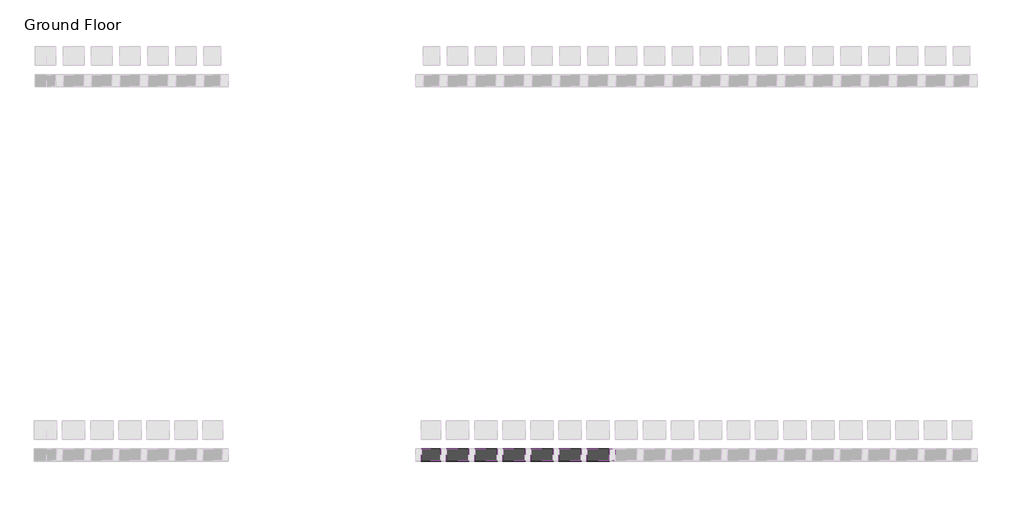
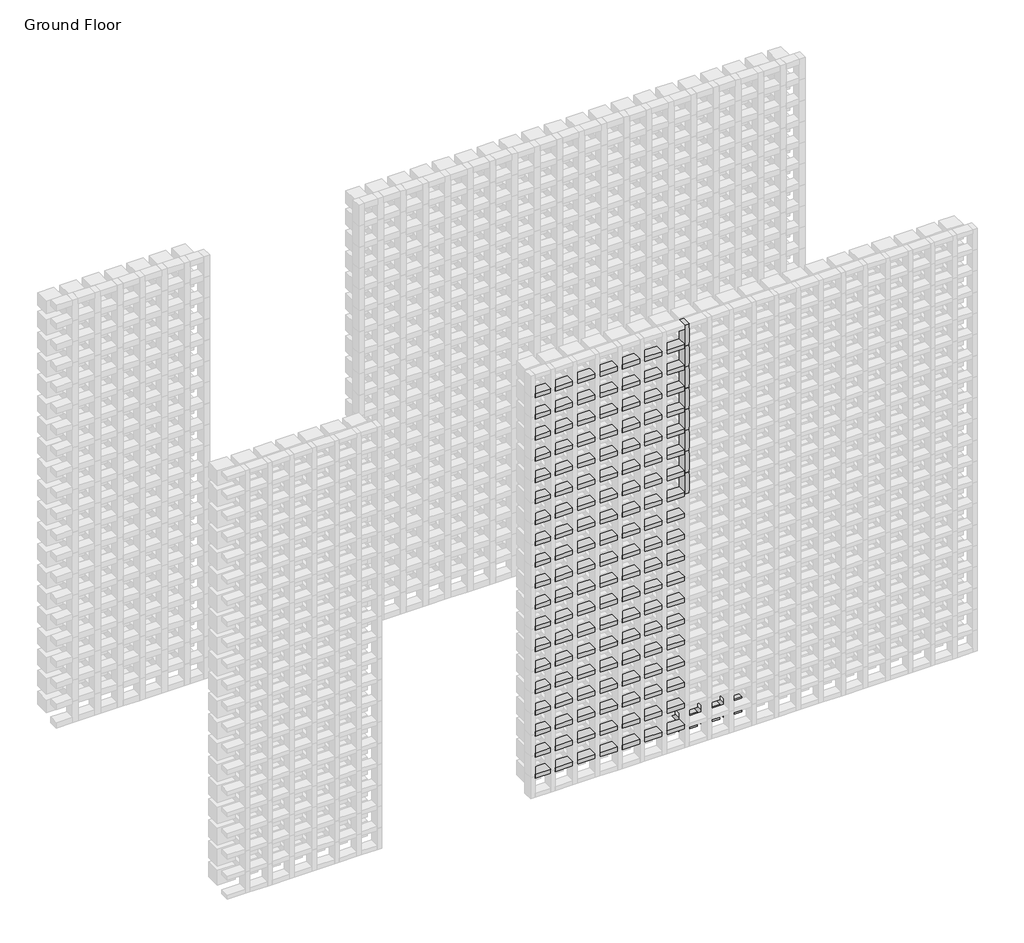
# One storey, part 67 of 350: 141 members, 3 plates.
"""IFC4 building model written with IfcOpenShell, lengths in millimetres."""

from ifc_helpers import new_model, si_unit, origin, place, context, project, spatial, transform, mapped, element, save
from components import rectangular_mullion_5b501421, rectangular_mullion_e9e2e2fa, rectangular_mullion_f28dea33, empty_system_panel_empty_fe50b430

model = new_model("IFC4")

# Units and contexts
model_context = context("Model", 3, world=origin())
ifc_project = project(units=[si_unit("LENGTHUNIT", "METRE", prefix="MILLI")], contexts=[model_context])

# Site, building, storey
site = spatial("IfcSite", under=ifc_project)
building = spatial("IfcBuilding", under=site)
storey = spatial("IfcBuildingStorey", under=building, Name="Ground Floor", Elevation=0.0)

# Members
placement = place(None, origin())
rectangular_mullion_shape = rectangular_mullion_5b501421(model_context)
element("IfcMember", 1, ObjectType="Rectangular Mullion : Batten_Timber_Modinex_Austratus_Grid_Fascia_30x65_Hemlock", at=placement, inside=storey, context=model_context, shape_type="MappedRepresentation", body=[
    mapped(rectangular_mullion_shape, transform((10966.4361642, 38968.2978302, 1800.0), x_axis=(1.0, 0.0, 0.0), y_axis=(0.0, -1.0, 0.0), z_axis=(0.0, 0.0, -1.0))),
])
element("IfcMember", 2, ObjectType="Rectangular Mullion : Batten_Timber_Modinex_Austratus_Grid_Fascia_30x65_Hemlock", at=placement, inside=storey, context=model_context, shape_type="MappedRepresentation", body=[
    mapped(rectangular_mullion_shape, transform((10966.4361642, 38968.2978302, 1950.0), x_axis=(1.0, 0.0, 0.0), y_axis=(0.0, -1.0, 0.0), z_axis=(0.0, 0.0, -1.0))),
])
element("IfcMember", 3, ObjectType="Rectangular Mullion : Batten_Timber_Modinex_Austratus_Grid_Fascia_30x65_Hemlock", at=placement, inside=storey, context=model_context, shape_type="MappedRepresentation", body=[
    mapped(rectangular_mullion_shape, transform((10966.4361642, 38968.2978302, 2100.0), x_axis=(1.0, 0.0, 0.0), y_axis=(0.0, -1.0, 0.0), z_axis=(0.0, 0.0, -1.0))),
])
element("IfcMember", 4, ObjectType="Rectangular Mullion : Batten_Timber_Modinex_Austratus_Grid_Fascia_30x65_Hemlock", at=placement, inside=storey, context=model_context, shape_type="MappedRepresentation", body=[
    mapped(rectangular_mullion_shape, transform((10966.4361642, 38968.2978302, 2250.0), x_axis=(1.0, 0.0, 0.0), y_axis=(0.0, -1.0, 0.0), z_axis=(0.0, 0.0, -1.0))),
])
element("IfcMember", 5, ObjectType="Rectangular Mullion : Batten_Timber_Modinex_Austratus_Grid_Fascia_30x65_Hemlock", at=placement, inside=storey, context=model_context, shape_type="MappedRepresentation", body=[
    mapped(rectangular_mullion_shape, transform((10966.4361642, 38968.2978302, 2400.0), x_axis=(1.0, 0.0, 0.0), y_axis=(0.0, -1.0, 0.0), z_axis=(0.0, 0.0, -1.0))),
])
element("IfcMember", 6, ObjectType="Rectangular Mullion : Batten_Timber_Modinex_Austratus_Grid_Fascia_30x65_Hemlock", at=placement, inside=storey, context=model_context, shape_type="MappedRepresentation", body=[
    mapped(rectangular_mullion_shape, transform((10966.4361642, 38968.2978302, 2550.0), x_axis=(1.0, 0.0, 0.0), y_axis=(0.0, -1.0, 0.0), z_axis=(0.0, 0.0, -1.0))),
])
element("IfcMember", 7, ObjectType="Rectangular Mullion : Batten_Timber_Modinex_Austratus_Grid_Fascia_30x65_Hemlock", at=placement, inside=storey, context=model_context, shape_type="MappedRepresentation", body=[
    mapped(rectangular_mullion_shape, transform((10966.4361642, 38968.2978302, 2700.0), x_axis=(1.0, 0.0, 0.0), y_axis=(0.0, -1.0, 0.0), z_axis=(0.0, 0.0, -1.0))),
])
element("IfcMember", 8, ObjectType="Rectangular Mullion : Batten_Timber_Modinex_Austratus_Grid_Fascia_30x65_Hemlock", at=placement, inside=storey, context=model_context, shape_type="MappedRepresentation", body=[
    mapped(rectangular_mullion_shape, transform((10966.4361642, 38968.2978302, 2850.0), x_axis=(1.0, 0.0, 0.0), y_axis=(0.0, -1.0, 0.0), z_axis=(0.0, 0.0, -1.0))),
])
rectangular_mullion_2_shape = rectangular_mullion_e9e2e2fa(model_context)
element("IfcMember", 9, ObjectType="Rectangular Mullion : Batten_Timber_Modinex_Austratus_Grid_Fascia_30x65_Hemlock", at=placement, inside=storey, context=model_context, shape_type="MappedRepresentation", body=[
    mapped(rectangular_mullion_2_shape, transform((10051.4361642, 38968.2978302, 150.0), x_axis=(0.0, 0.0, 1.0), y_axis=(0.0, -1.0, 0.0), z_axis=(1.0, 0.0, 0.0))),
])
element("IfcMember", 10, ObjectType="Rectangular Mullion : Batten_Timber_Modinex_Austratus_Grid_Fascia_30x65_Hemlock", at=placement, inside=storey, context=model_context, shape_type="MappedRepresentation", body=[
    mapped(rectangular_mullion_2_shape, transform((10051.4361642, 38968.2978302, 300.0), x_axis=(0.0, 0.0, 1.0), y_axis=(0.0, -1.0, 0.0), z_axis=(1.0, 0.0, 0.0))),
])
element("IfcMember", 11, ObjectType="Rectangular Mullion : Batten_Timber_Modinex_Austratus_Grid_Fascia_30x65_Hemlock", at=placement, inside=storey, context=model_context, shape_type="MappedRepresentation", body=[
    mapped(rectangular_mullion_2_shape, transform((10051.4361642, 38968.2978302, 450.0), x_axis=(0.0, 0.0, 1.0), y_axis=(0.0, -1.0, 0.0), z_axis=(1.0, 0.0, 0.0))),
])
element("IfcMember", 12, ObjectType="Rectangular Mullion : Batten_Timber_Modinex_Austratus_Grid_Fascia_30x65_Hemlock", at=placement, inside=storey, context=model_context, shape_type="MappedRepresentation", body=[
    mapped(rectangular_mullion_2_shape, transform((10051.4361642, 38968.2978302, 600.0), x_axis=(0.0, 0.0, 1.0), y_axis=(0.0, -1.0, 0.0), z_axis=(1.0, 0.0, 0.0))),
])
element("IfcMember", 13, ObjectType="Rectangular Mullion : Batten_Timber_Modinex_Austratus_Grid_Fascia_30x65_Hemlock", at=placement, inside=storey, context=model_context, shape_type="MappedRepresentation", body=[
    mapped(rectangular_mullion_2_shape, transform((10051.4361642, 38968.2978302, 750.0), x_axis=(0.0, 0.0, 1.0), y_axis=(0.0, -1.0, 0.0), z_axis=(1.0, 0.0, 0.0))),
])
element("IfcMember", 14, ObjectType="Rectangular Mullion : Batten_Timber_Modinex_Austratus_Grid_Fascia_30x65_Hemlock", at=placement, inside=storey, context=model_context, shape_type="MappedRepresentation", body=[
    mapped(rectangular_mullion_2_shape, transform((10051.4361642, 38968.2978302, 900.0), x_axis=(0.0, 0.0, 1.0), y_axis=(0.0, -1.0, 0.0), z_axis=(1.0, 0.0, 0.0))),
])
element("IfcMember", 15, ObjectType="Rectangular Mullion : Batten_Timber_Modinex_Austratus_Grid_Fascia_30x65_Hemlock", at=placement, inside=storey, context=model_context, shape_type="MappedRepresentation", body=[
    mapped(rectangular_mullion_2_shape, transform((10051.4361642, 38968.2978302, 1050.0), x_axis=(0.0, 0.0, 1.0), y_axis=(0.0, -1.0, 0.0), z_axis=(1.0, 0.0, 0.0))),
])
element("IfcMember", 16, ObjectType="Rectangular Mullion : Batten_Timber_Modinex_Austratus_Grid_Fascia_30x65_Hemlock", at=placement, inside=storey, context=model_context, shape_type="MappedRepresentation", body=[
    mapped(rectangular_mullion_2_shape, transform((10051.4361642, 38968.2978302, 1200.0), x_axis=(0.0, 0.0, 1.0), y_axis=(0.0, -1.0, 0.0), z_axis=(1.0, 0.0, 0.0))),
])
element("IfcMember", 17, ObjectType="Rectangular Mullion : Batten_Timber_Modinex_Austratus_Grid_Fascia_30x65_Hemlock", at=placement, inside=storey, context=model_context, shape_type="MappedRepresentation", body=[
    mapped(rectangular_mullion_2_shape, transform((10051.4361642, 38968.2978302, 1350.0), x_axis=(0.0, 0.0, 1.0), y_axis=(0.0, -1.0, 0.0), z_axis=(1.0, 0.0, 0.0))),
])
element("IfcMember", 18, ObjectType="Rectangular Mullion : Batten_Timber_Modinex_Austratus_Grid_Fascia_30x65_Hemlock", at=placement, inside=storey, context=model_context, shape_type="MappedRepresentation", body=[
    mapped(rectangular_mullion_2_shape, transform((10051.4361642, 38968.2978302, 1500.0), x_axis=(0.0, 0.0, 1.0), y_axis=(0.0, -1.0, 0.0), z_axis=(1.0, 0.0, 0.0))),
])
element("IfcMember", 19, ObjectType="Rectangular Mullion : Batten_Timber_Modinex_Austratus_Grid_Fascia_30x65_Hemlock", at=placement, inside=storey, context=model_context, shape_type="MappedRepresentation", body=[
    mapped(rectangular_mullion_2_shape, transform((10051.4361642, 38968.2978302, 1650.0), x_axis=(0.0, 0.0, 1.0), y_axis=(0.0, -1.0, 0.0), z_axis=(1.0, 0.0, 0.0))),
])
element("IfcMember", 20, ObjectType="Rectangular Mullion : Batten_Timber_Modinex_Austratus_Grid_Fascia_30x65_Hemlock", at=placement, inside=storey, context=model_context, shape_type="MappedRepresentation", body=[
    mapped(rectangular_mullion_2_shape, transform((10051.4361642, 38968.2978302, 1800.0), x_axis=(0.0, 0.0, 1.0), y_axis=(0.0, -1.0, 0.0), z_axis=(1.0, 0.0, 0.0))),
])
element("IfcMember", 21, ObjectType="Rectangular Mullion : Batten_Timber_Modinex_Austratus_Grid_Fascia_30x65_Hemlock", at=placement, inside=storey, context=model_context, shape_type="MappedRepresentation", body=[
    mapped(rectangular_mullion_2_shape, transform((10051.4361642, 38968.2978302, 1950.0), x_axis=(0.0, 0.0, 1.0), y_axis=(0.0, -1.0, 0.0), z_axis=(1.0, 0.0, 0.0))),
])
element("IfcMember", 22, ObjectType="Rectangular Mullion : Batten_Timber_Modinex_Austratus_Grid_Fascia_30x65_Hemlock", at=placement, inside=storey, context=model_context, shape_type="MappedRepresentation", body=[
    mapped(rectangular_mullion_2_shape, transform((10051.4361642, 38968.2978302, 2100.0), x_axis=(0.0, 0.0, 1.0), y_axis=(0.0, -1.0, 0.0), z_axis=(1.0, 0.0, 0.0))),
])
element("IfcMember", 23, ObjectType="Rectangular Mullion : Batten_Timber_Modinex_Austratus_Grid_Fascia_30x65_Hemlock", at=placement, inside=storey, context=model_context, shape_type="MappedRepresentation", body=[
    mapped(rectangular_mullion_2_shape, transform((10051.4361642, 38968.2978302, 2250.0), x_axis=(0.0, 0.0, 1.0), y_axis=(0.0, -1.0, 0.0), z_axis=(1.0, 0.0, 0.0))),
])
element("IfcMember", 24, ObjectType="Rectangular Mullion : Batten_Timber_Modinex_Austratus_Grid_Fascia_30x65_Hemlock", at=placement, inside=storey, context=model_context, shape_type="MappedRepresentation", body=[
    mapped(rectangular_mullion_2_shape, transform((10051.4361642, 38968.2978302, 2400.0), x_axis=(0.0, 0.0, 1.0), y_axis=(0.0, -1.0, 0.0), z_axis=(1.0, 0.0, 0.0))),
])
element("IfcMember", 25, ObjectType="Rectangular Mullion : Batten_Timber_Modinex_Austratus_Grid_Fascia_30x65_Hemlock", at=placement, inside=storey, context=model_context, shape_type="MappedRepresentation", body=[
    mapped(rectangular_mullion_2_shape, transform((10051.4361642, 38968.2978302, 2550.0), x_axis=(0.0, 0.0, 1.0), y_axis=(0.0, -1.0, 0.0), z_axis=(1.0, 0.0, 0.0))),
])
element("IfcMember", 26, ObjectType="Rectangular Mullion : Batten_Timber_Modinex_Austratus_Grid_Fascia_30x65_Hemlock", at=placement, inside=storey, context=model_context, shape_type="MappedRepresentation", body=[
    mapped(rectangular_mullion_2_shape, transform((10051.4361642, 38968.2978302, 2700.0), x_axis=(0.0, 0.0, 1.0), y_axis=(0.0, -1.0, 0.0), z_axis=(1.0, 0.0, 0.0))),
])
element("IfcMember", 27, ObjectType="Rectangular Mullion : Batten_Timber_Modinex_Austratus_Grid_Fascia_30x65_Hemlock", at=placement, inside=storey, context=model_context, shape_type="MappedRepresentation", body=[
    mapped(rectangular_mullion_2_shape, transform((10051.4361642, 38968.2978302, 2850.0), x_axis=(0.0, 0.0, 1.0), y_axis=(0.0, -1.0, 0.0), z_axis=(1.0, 0.0, 0.0))),
])
rectangular_mullion_3_shape = rectangular_mullion_f28dea33(model_context)
element("IfcMember", 28, ObjectType="Rectangular Mullion : Batten_Timber_Modinex_Austratus_Grid_Fascia_30x65_Hemlock", at=placement, inside=storey, context=model_context, shape_type="MappedRepresentation", body=[
    mapped(rectangular_mullion_3_shape, transform((10201.4361642, 38968.2978302, 150.0), x_axis=(0.0, 0.0, 1.0), y_axis=(0.0, -1.0, 0.0), z_axis=(1.0, 0.0, 0.0))),
])
element("IfcMember", 29, ObjectType="Rectangular Mullion : Batten_Timber_Modinex_Austratus_Grid_Fascia_30x65_Hemlock", at=placement, inside=storey, context=model_context, shape_type="MappedRepresentation", body=[
    mapped(rectangular_mullion_3_shape, transform((10351.4361642, 38968.2978302, 150.0), x_axis=(0.0, 0.0, 1.0), y_axis=(0.0, -1.0, 0.0), z_axis=(1.0, 0.0, 0.0))),
])
element("IfcMember", 30, ObjectType="Rectangular Mullion : Batten_Timber_Modinex_Austratus_Grid_Fascia_30x65_Hemlock", at=placement, inside=storey, context=model_context, shape_type="MappedRepresentation", body=[
    mapped(rectangular_mullion_3_shape, transform((10501.4361642, 38968.2978302, 150.0), x_axis=(0.0, 0.0, 1.0), y_axis=(0.0, -1.0, 0.0), z_axis=(1.0, 0.0, 0.0))),
])
element("IfcMember", 31, ObjectType="Rectangular Mullion : Batten_Timber_Modinex_Austratus_Grid_Fascia_30x65_Hemlock", at=placement, inside=storey, context=model_context, shape_type="MappedRepresentation", body=[
    mapped(rectangular_mullion_3_shape, transform((10651.4361642, 38968.2978302, 150.0), x_axis=(0.0, 0.0, 1.0), y_axis=(0.0, -1.0, 0.0), z_axis=(1.0, 0.0, 0.0))),
])
element("IfcMember", 32, ObjectType="Rectangular Mullion : Batten_Timber_Modinex_Austratus_Grid_Fascia_30x65_Hemlock", at=placement, inside=storey, context=model_context, shape_type="MappedRepresentation", body=[
    mapped(rectangular_mullion_3_shape, transform((10801.4361642, 38968.2978302, 150.0), x_axis=(0.0, 0.0, 1.0), y_axis=(0.0, -1.0, 0.0), z_axis=(1.0, 0.0, 0.0))),
])
element("IfcMember", 33, ObjectType="Rectangular Mullion : Batten_Timber_Modinex_Austratus_Grid_Fascia_30x65_Hemlock", at=placement, inside=storey, context=model_context, shape_type="MappedRepresentation", body=[
    mapped(rectangular_mullion_3_shape, transform((10951.4361642, 38968.2978302, 150.0), x_axis=(0.0, 0.0, 1.0), y_axis=(0.0, -1.0, 0.0), z_axis=(1.0, 0.0, 0.0))),
])
element("IfcMember", 34, ObjectType="Rectangular Mullion : Batten_Timber_Modinex_Austratus_Grid_Fascia_30x65_Hemlock", at=placement, inside=storey, context=model_context, shape_type="MappedRepresentation", body=[
    mapped(rectangular_mullion_3_shape, transform((10201.4361642, 38968.2978302, 300.0), x_axis=(0.0, 0.0, 1.0), y_axis=(0.0, -1.0, 0.0), z_axis=(1.0, 0.0, 0.0))),
])
element("IfcMember", 35, ObjectType="Rectangular Mullion : Batten_Timber_Modinex_Austratus_Grid_Fascia_30x65_Hemlock", at=placement, inside=storey, context=model_context, shape_type="MappedRepresentation", body=[
    mapped(rectangular_mullion_3_shape, transform((10351.4361642, 38968.2978302, 300.0), x_axis=(0.0, 0.0, 1.0), y_axis=(0.0, -1.0, 0.0), z_axis=(1.0, 0.0, 0.0))),
])
element("IfcMember", 36, ObjectType="Rectangular Mullion : Batten_Timber_Modinex_Austratus_Grid_Fascia_30x65_Hemlock", at=placement, inside=storey, context=model_context, shape_type="MappedRepresentation", body=[
    mapped(rectangular_mullion_3_shape, transform((10501.4361642, 38968.2978302, 300.0), x_axis=(0.0, 0.0, 1.0), y_axis=(0.0, -1.0, 0.0), z_axis=(1.0, 0.0, 0.0))),
])
element("IfcMember", 37, ObjectType="Rectangular Mullion : Batten_Timber_Modinex_Austratus_Grid_Fascia_30x65_Hemlock", at=placement, inside=storey, context=model_context, shape_type="MappedRepresentation", body=[
    mapped(rectangular_mullion_3_shape, transform((10651.4361642, 38968.2978302, 300.0), x_axis=(0.0, 0.0, 1.0), y_axis=(0.0, -1.0, 0.0), z_axis=(1.0, 0.0, 0.0))),
])
element("IfcMember", 38, ObjectType="Rectangular Mullion : Batten_Timber_Modinex_Austratus_Grid_Fascia_30x65_Hemlock", at=placement, inside=storey, context=model_context, shape_type="MappedRepresentation", body=[
    mapped(rectangular_mullion_3_shape, transform((10801.4361642, 38968.2978302, 300.0), x_axis=(0.0, 0.0, 1.0), y_axis=(0.0, -1.0, 0.0), z_axis=(1.0, 0.0, 0.0))),
])
element("IfcMember", 39, ObjectType="Rectangular Mullion : Batten_Timber_Modinex_Austratus_Grid_Fascia_30x65_Hemlock", at=placement, inside=storey, context=model_context, shape_type="MappedRepresentation", body=[
    mapped(rectangular_mullion_3_shape, transform((10951.4361642, 38968.2978302, 300.0), x_axis=(0.0, 0.0, 1.0), y_axis=(0.0, -1.0, 0.0), z_axis=(1.0, 0.0, 0.0))),
])
element("IfcMember", 40, ObjectType="Rectangular Mullion : Batten_Timber_Modinex_Austratus_Grid_Fascia_30x65_Hemlock", at=placement, inside=storey, context=model_context, shape_type="MappedRepresentation", body=[
    mapped(rectangular_mullion_3_shape, transform((10201.4361642, 38968.2978302, 450.0), x_axis=(0.0, 0.0, 1.0), y_axis=(0.0, -1.0, 0.0), z_axis=(1.0, 0.0, 0.0))),
])
element("IfcMember", 41, ObjectType="Rectangular Mullion : Batten_Timber_Modinex_Austratus_Grid_Fascia_30x65_Hemlock", at=placement, inside=storey, context=model_context, shape_type="MappedRepresentation", body=[
    mapped(rectangular_mullion_3_shape, transform((10351.4361642, 38968.2978302, 450.0), x_axis=(0.0, 0.0, 1.0), y_axis=(0.0, -1.0, 0.0), z_axis=(1.0, 0.0, 0.0))),
])
element("IfcMember", 42, ObjectType="Rectangular Mullion : Batten_Timber_Modinex_Austratus_Grid_Fascia_30x65_Hemlock", at=placement, inside=storey, context=model_context, shape_type="MappedRepresentation", body=[
    mapped(rectangular_mullion_3_shape, transform((10501.4361642, 38968.2978302, 450.0), x_axis=(0.0, 0.0, 1.0), y_axis=(0.0, -1.0, 0.0), z_axis=(1.0, 0.0, 0.0))),
])
element("IfcMember", 43, ObjectType="Rectangular Mullion : Batten_Timber_Modinex_Austratus_Grid_Fascia_30x65_Hemlock", at=placement, inside=storey, context=model_context, shape_type="MappedRepresentation", body=[
    mapped(rectangular_mullion_3_shape, transform((10651.4361642, 38968.2978302, 450.0), x_axis=(0.0, 0.0, 1.0), y_axis=(0.0, -1.0, 0.0), z_axis=(1.0, 0.0, 0.0))),
])
element("IfcMember", 44, ObjectType="Rectangular Mullion : Batten_Timber_Modinex_Austratus_Grid_Fascia_30x65_Hemlock", at=placement, inside=storey, context=model_context, shape_type="MappedRepresentation", body=[
    mapped(rectangular_mullion_3_shape, transform((10801.4361642, 38968.2978302, 450.0), x_axis=(0.0, 0.0, 1.0), y_axis=(0.0, -1.0, 0.0), z_axis=(1.0, 0.0, 0.0))),
])
element("IfcMember", 45, ObjectType="Rectangular Mullion : Batten_Timber_Modinex_Austratus_Grid_Fascia_30x65_Hemlock", at=placement, inside=storey, context=model_context, shape_type="MappedRepresentation", body=[
    mapped(rectangular_mullion_3_shape, transform((10951.4361642, 38968.2978302, 450.0), x_axis=(0.0, 0.0, 1.0), y_axis=(0.0, -1.0, 0.0), z_axis=(1.0, 0.0, 0.0))),
])
element("IfcMember", 46, ObjectType="Rectangular Mullion : Batten_Timber_Modinex_Austratus_Grid_Fascia_30x65_Hemlock", at=placement, inside=storey, context=model_context, shape_type="MappedRepresentation", body=[
    mapped(rectangular_mullion_3_shape, transform((10201.4361642, 38968.2978302, 600.0), x_axis=(0.0, 0.0, 1.0), y_axis=(0.0, -1.0, 0.0), z_axis=(1.0, 0.0, 0.0))),
])
element("IfcMember", 47, ObjectType="Rectangular Mullion : Batten_Timber_Modinex_Austratus_Grid_Fascia_30x65_Hemlock", at=placement, inside=storey, context=model_context, shape_type="MappedRepresentation", body=[
    mapped(rectangular_mullion_3_shape, transform((10351.4361642, 38968.2978302, 600.0), x_axis=(0.0, 0.0, 1.0), y_axis=(0.0, -1.0, 0.0), z_axis=(1.0, 0.0, 0.0))),
])
element("IfcMember", 48, ObjectType="Rectangular Mullion : Batten_Timber_Modinex_Austratus_Grid_Fascia_30x65_Hemlock", at=placement, inside=storey, context=model_context, shape_type="MappedRepresentation", body=[
    mapped(rectangular_mullion_3_shape, transform((10501.4361642, 38968.2978302, 600.0), x_axis=(0.0, 0.0, 1.0), y_axis=(0.0, -1.0, 0.0), z_axis=(1.0, 0.0, 0.0))),
])
element("IfcMember", 49, ObjectType="Rectangular Mullion : Batten_Timber_Modinex_Austratus_Grid_Fascia_30x65_Hemlock", at=placement, inside=storey, context=model_context, shape_type="MappedRepresentation", body=[
    mapped(rectangular_mullion_3_shape, transform((10651.4361642, 38968.2978302, 600.0), x_axis=(0.0, 0.0, 1.0), y_axis=(0.0, -1.0, 0.0), z_axis=(1.0, 0.0, 0.0))),
])
element("IfcMember", 50, ObjectType="Rectangular Mullion : Batten_Timber_Modinex_Austratus_Grid_Fascia_30x65_Hemlock", at=placement, inside=storey, context=model_context, shape_type="MappedRepresentation", body=[
    mapped(rectangular_mullion_3_shape, transform((10801.4361642, 38968.2978302, 600.0), x_axis=(0.0, 0.0, 1.0), y_axis=(0.0, -1.0, 0.0), z_axis=(1.0, 0.0, 0.0))),
])
element("IfcMember", 51, ObjectType="Rectangular Mullion : Batten_Timber_Modinex_Austratus_Grid_Fascia_30x65_Hemlock", at=placement, inside=storey, context=model_context, shape_type="MappedRepresentation", body=[
    mapped(rectangular_mullion_3_shape, transform((10951.4361642, 38968.2978302, 600.0), x_axis=(0.0, 0.0, 1.0), y_axis=(0.0, -1.0, 0.0), z_axis=(1.0, 0.0, 0.0))),
])
element("IfcMember", 52, ObjectType="Rectangular Mullion : Batten_Timber_Modinex_Austratus_Grid_Fascia_30x65_Hemlock", at=placement, inside=storey, context=model_context, shape_type="MappedRepresentation", body=[
    mapped(rectangular_mullion_3_shape, transform((10201.4361642, 38968.2978302, 750.0), x_axis=(0.0, 0.0, 1.0), y_axis=(0.0, -1.0, 0.0), z_axis=(1.0, 0.0, 0.0))),
])
element("IfcMember", 53, ObjectType="Rectangular Mullion : Batten_Timber_Modinex_Austratus_Grid_Fascia_30x65_Hemlock", at=placement, inside=storey, context=model_context, shape_type="MappedRepresentation", body=[
    mapped(rectangular_mullion_3_shape, transform((10351.4361642, 38968.2978302, 750.0), x_axis=(0.0, 0.0, 1.0), y_axis=(0.0, -1.0, 0.0), z_axis=(1.0, 0.0, 0.0))),
])
element("IfcMember", 54, ObjectType="Rectangular Mullion : Batten_Timber_Modinex_Austratus_Grid_Fascia_30x65_Hemlock", at=placement, inside=storey, context=model_context, shape_type="MappedRepresentation", body=[
    mapped(rectangular_mullion_3_shape, transform((10501.4361642, 38968.2978302, 750.0), x_axis=(0.0, 0.0, 1.0), y_axis=(0.0, -1.0, 0.0), z_axis=(1.0, 0.0, 0.0))),
])
element("IfcMember", 55, ObjectType="Rectangular Mullion : Batten_Timber_Modinex_Austratus_Grid_Fascia_30x65_Hemlock", at=placement, inside=storey, context=model_context, shape_type="MappedRepresentation", body=[
    mapped(rectangular_mullion_3_shape, transform((10651.4361642, 38968.2978302, 750.0), x_axis=(0.0, 0.0, 1.0), y_axis=(0.0, -1.0, 0.0), z_axis=(1.0, 0.0, 0.0))),
])
element("IfcMember", 56, ObjectType="Rectangular Mullion : Batten_Timber_Modinex_Austratus_Grid_Fascia_30x65_Hemlock", at=placement, inside=storey, context=model_context, shape_type="MappedRepresentation", body=[
    mapped(rectangular_mullion_3_shape, transform((10801.4361642, 38968.2978302, 750.0), x_axis=(0.0, 0.0, 1.0), y_axis=(0.0, -1.0, 0.0), z_axis=(1.0, 0.0, 0.0))),
])
element("IfcMember", 57, ObjectType="Rectangular Mullion : Batten_Timber_Modinex_Austratus_Grid_Fascia_30x65_Hemlock", at=placement, inside=storey, context=model_context, shape_type="MappedRepresentation", body=[
    mapped(rectangular_mullion_3_shape, transform((10951.4361642, 38968.2978302, 750.0), x_axis=(0.0, 0.0, 1.0), y_axis=(0.0, -1.0, 0.0), z_axis=(1.0, 0.0, 0.0))),
])
element("IfcMember", 58, ObjectType="Rectangular Mullion : Batten_Timber_Modinex_Austratus_Grid_Fascia_30x65_Hemlock", at=placement, inside=storey, context=model_context, shape_type="MappedRepresentation", body=[
    mapped(rectangular_mullion_3_shape, transform((10201.4361642, 38968.2978302, 900.0), x_axis=(0.0, 0.0, 1.0), y_axis=(0.0, -1.0, 0.0), z_axis=(1.0, 0.0, 0.0))),
])
element("IfcMember", 59, ObjectType="Rectangular Mullion : Batten_Timber_Modinex_Austratus_Grid_Fascia_30x65_Hemlock", at=placement, inside=storey, context=model_context, shape_type="MappedRepresentation", body=[
    mapped(rectangular_mullion_3_shape, transform((10351.4361642, 38968.2978302, 900.0), x_axis=(0.0, 0.0, 1.0), y_axis=(0.0, -1.0, 0.0), z_axis=(1.0, 0.0, 0.0))),
])
element("IfcMember", 60, ObjectType="Rectangular Mullion : Batten_Timber_Modinex_Austratus_Grid_Fascia_30x65_Hemlock", at=placement, inside=storey, context=model_context, shape_type="MappedRepresentation", body=[
    mapped(rectangular_mullion_3_shape, transform((10501.4361642, 38968.2978302, 900.0), x_axis=(0.0, 0.0, 1.0), y_axis=(0.0, -1.0, 0.0), z_axis=(1.0, 0.0, 0.0))),
])
element("IfcMember", 61, ObjectType="Rectangular Mullion : Batten_Timber_Modinex_Austratus_Grid_Fascia_30x65_Hemlock", at=placement, inside=storey, context=model_context, shape_type="MappedRepresentation", body=[
    mapped(rectangular_mullion_3_shape, transform((10651.4361642, 38968.2978302, 900.0), x_axis=(0.0, 0.0, 1.0), y_axis=(0.0, -1.0, 0.0), z_axis=(1.0, 0.0, 0.0))),
])
element("IfcMember", 62, ObjectType="Rectangular Mullion : Batten_Timber_Modinex_Austratus_Grid_Fascia_30x65_Hemlock", at=placement, inside=storey, context=model_context, shape_type="MappedRepresentation", body=[
    mapped(rectangular_mullion_3_shape, transform((10801.4361642, 38968.2978302, 900.0), x_axis=(0.0, 0.0, 1.0), y_axis=(0.0, -1.0, 0.0), z_axis=(1.0, 0.0, 0.0))),
])
element("IfcMember", 63, ObjectType="Rectangular Mullion : Batten_Timber_Modinex_Austratus_Grid_Fascia_30x65_Hemlock", at=placement, inside=storey, context=model_context, shape_type="MappedRepresentation", body=[
    mapped(rectangular_mullion_3_shape, transform((10951.4361642, 38968.2978302, 900.0), x_axis=(0.0, 0.0, 1.0), y_axis=(0.0, -1.0, 0.0), z_axis=(1.0, 0.0, 0.0))),
])
element("IfcMember", 64, ObjectType="Rectangular Mullion : Batten_Timber_Modinex_Austratus_Grid_Fascia_30x65_Hemlock", at=placement, inside=storey, context=model_context, shape_type="MappedRepresentation", body=[
    mapped(rectangular_mullion_3_shape, transform((10201.4361642, 38968.2978302, 1050.0), x_axis=(0.0, 0.0, 1.0), y_axis=(0.0, -1.0, 0.0), z_axis=(1.0, 0.0, 0.0))),
])
element("IfcMember", 65, ObjectType="Rectangular Mullion : Batten_Timber_Modinex_Austratus_Grid_Fascia_30x65_Hemlock", at=placement, inside=storey, context=model_context, shape_type="MappedRepresentation", body=[
    mapped(rectangular_mullion_3_shape, transform((10351.4361642, 38968.2978302, 1050.0), x_axis=(0.0, 0.0, 1.0), y_axis=(0.0, -1.0, 0.0), z_axis=(1.0, 0.0, 0.0))),
])
element("IfcMember", 66, ObjectType="Rectangular Mullion : Batten_Timber_Modinex_Austratus_Grid_Fascia_30x65_Hemlock", at=placement, inside=storey, context=model_context, shape_type="MappedRepresentation", body=[
    mapped(rectangular_mullion_3_shape, transform((10501.4361642, 38968.2978302, 1050.0), x_axis=(0.0, 0.0, 1.0), y_axis=(0.0, -1.0, 0.0), z_axis=(1.0, 0.0, 0.0))),
])
element("IfcMember", 67, ObjectType="Rectangular Mullion : Batten_Timber_Modinex_Austratus_Grid_Fascia_30x65_Hemlock", at=placement, inside=storey, context=model_context, shape_type="MappedRepresentation", body=[
    mapped(rectangular_mullion_3_shape, transform((10651.4361642, 38968.2978302, 1050.0), x_axis=(0.0, 0.0, 1.0), y_axis=(0.0, -1.0, 0.0), z_axis=(1.0, 0.0, 0.0))),
])
element("IfcMember", 68, ObjectType="Rectangular Mullion : Batten_Timber_Modinex_Austratus_Grid_Fascia_30x65_Hemlock", at=placement, inside=storey, context=model_context, shape_type="MappedRepresentation", body=[
    mapped(rectangular_mullion_3_shape, transform((10801.4361642, 38968.2978302, 1050.0), x_axis=(0.0, 0.0, 1.0), y_axis=(0.0, -1.0, 0.0), z_axis=(1.0, 0.0, 0.0))),
])
element("IfcMember", 69, ObjectType="Rectangular Mullion : Batten_Timber_Modinex_Austratus_Grid_Fascia_30x65_Hemlock", at=placement, inside=storey, context=model_context, shape_type="MappedRepresentation", body=[
    mapped(rectangular_mullion_3_shape, transform((10951.4361642, 38968.2978302, 1050.0), x_axis=(0.0, 0.0, 1.0), y_axis=(0.0, -1.0, 0.0), z_axis=(1.0, 0.0, 0.0))),
])
element("IfcMember", 70, ObjectType="Rectangular Mullion : Batten_Timber_Modinex_Austratus_Grid_Fascia_30x65_Hemlock", at=placement, inside=storey, context=model_context, shape_type="MappedRepresentation", body=[
    mapped(rectangular_mullion_3_shape, transform((10201.4361642, 38968.2978302, 1200.0), x_axis=(0.0, 0.0, 1.0), y_axis=(0.0, -1.0, 0.0), z_axis=(1.0, 0.0, 0.0))),
])
element("IfcMember", 71, ObjectType="Rectangular Mullion : Batten_Timber_Modinex_Austratus_Grid_Fascia_30x65_Hemlock", at=placement, inside=storey, context=model_context, shape_type="MappedRepresentation", body=[
    mapped(rectangular_mullion_3_shape, transform((10351.4361642, 38968.2978302, 1200.0), x_axis=(0.0, 0.0, 1.0), y_axis=(0.0, -1.0, 0.0), z_axis=(1.0, 0.0, 0.0))),
])
element("IfcMember", 72, ObjectType="Rectangular Mullion : Batten_Timber_Modinex_Austratus_Grid_Fascia_30x65_Hemlock", at=placement, inside=storey, context=model_context, shape_type="MappedRepresentation", body=[
    mapped(rectangular_mullion_3_shape, transform((10501.4361642, 38968.2978302, 1200.0), x_axis=(0.0, 0.0, 1.0), y_axis=(0.0, -1.0, 0.0), z_axis=(1.0, 0.0, 0.0))),
])
element("IfcMember", 73, ObjectType="Rectangular Mullion : Batten_Timber_Modinex_Austratus_Grid_Fascia_30x65_Hemlock", at=placement, inside=storey, context=model_context, shape_type="MappedRepresentation", body=[
    mapped(rectangular_mullion_3_shape, transform((10651.4361642, 38968.2978302, 1200.0), x_axis=(0.0, 0.0, 1.0), y_axis=(0.0, -1.0, 0.0), z_axis=(1.0, 0.0, 0.0))),
])
element("IfcMember", 74, ObjectType="Rectangular Mullion : Batten_Timber_Modinex_Austratus_Grid_Fascia_30x65_Hemlock", at=placement, inside=storey, context=model_context, shape_type="MappedRepresentation", body=[
    mapped(rectangular_mullion_3_shape, transform((10801.4361642, 38968.2978302, 1200.0), x_axis=(0.0, 0.0, 1.0), y_axis=(0.0, -1.0, 0.0), z_axis=(1.0, 0.0, 0.0))),
])
element("IfcMember", 75, ObjectType="Rectangular Mullion : Batten_Timber_Modinex_Austratus_Grid_Fascia_30x65_Hemlock", at=placement, inside=storey, context=model_context, shape_type="MappedRepresentation", body=[
    mapped(rectangular_mullion_3_shape, transform((10951.4361642, 38968.2978302, 1200.0), x_axis=(0.0, 0.0, 1.0), y_axis=(0.0, -1.0, 0.0), z_axis=(1.0, 0.0, 0.0))),
])
element("IfcMember", 76, ObjectType="Rectangular Mullion : Batten_Timber_Modinex_Austratus_Grid_Fascia_30x65_Hemlock", at=placement, inside=storey, context=model_context, shape_type="MappedRepresentation", body=[
    mapped(rectangular_mullion_3_shape, transform((10201.4361642, 38968.2978302, 1350.0), x_axis=(0.0, 0.0, 1.0), y_axis=(0.0, -1.0, 0.0), z_axis=(1.0, 0.0, 0.0))),
])
element("IfcMember", 77, ObjectType="Rectangular Mullion : Batten_Timber_Modinex_Austratus_Grid_Fascia_30x65_Hemlock", at=placement, inside=storey, context=model_context, shape_type="MappedRepresentation", body=[
    mapped(rectangular_mullion_3_shape, transform((10351.4361642, 38968.2978302, 1350.0), x_axis=(0.0, 0.0, 1.0), y_axis=(0.0, -1.0, 0.0), z_axis=(1.0, 0.0, 0.0))),
])
element("IfcMember", 78, ObjectType="Rectangular Mullion : Batten_Timber_Modinex_Austratus_Grid_Fascia_30x65_Hemlock", at=placement, inside=storey, context=model_context, shape_type="MappedRepresentation", body=[
    mapped(rectangular_mullion_3_shape, transform((10501.4361642, 38968.2978302, 1350.0), x_axis=(0.0, 0.0, 1.0), y_axis=(0.0, -1.0, 0.0), z_axis=(1.0, 0.0, 0.0))),
])
element("IfcMember", 79, ObjectType="Rectangular Mullion : Batten_Timber_Modinex_Austratus_Grid_Fascia_30x65_Hemlock", at=placement, inside=storey, context=model_context, shape_type="MappedRepresentation", body=[
    mapped(rectangular_mullion_3_shape, transform((10651.4361642, 38968.2978302, 1350.0), x_axis=(0.0, 0.0, 1.0), y_axis=(0.0, -1.0, 0.0), z_axis=(1.0, 0.0, 0.0))),
])
element("IfcMember", 80, ObjectType="Rectangular Mullion : Batten_Timber_Modinex_Austratus_Grid_Fascia_30x65_Hemlock", at=placement, inside=storey, context=model_context, shape_type="MappedRepresentation", body=[
    mapped(rectangular_mullion_3_shape, transform((10801.4361642, 38968.2978302, 1350.0), x_axis=(0.0, 0.0, 1.0), y_axis=(0.0, -1.0, 0.0), z_axis=(1.0, 0.0, 0.0))),
])
element("IfcMember", 81, ObjectType="Rectangular Mullion : Batten_Timber_Modinex_Austratus_Grid_Fascia_30x65_Hemlock", at=placement, inside=storey, context=model_context, shape_type="MappedRepresentation", body=[
    mapped(rectangular_mullion_3_shape, transform((10951.4361642, 38968.2978302, 1350.0), x_axis=(0.0, 0.0, 1.0), y_axis=(0.0, -1.0, 0.0), z_axis=(1.0, 0.0, 0.0))),
])
element("IfcMember", 82, ObjectType="Rectangular Mullion : Batten_Timber_Modinex_Austratus_Grid_Fascia_30x65_Hemlock", at=placement, inside=storey, context=model_context, shape_type="MappedRepresentation", body=[
    mapped(rectangular_mullion_3_shape, transform((10201.4361642, 38968.2978302, 1500.0), x_axis=(0.0, 0.0, 1.0), y_axis=(0.0, -1.0, 0.0), z_axis=(1.0, 0.0, 0.0))),
])
element("IfcMember", 83, ObjectType="Rectangular Mullion : Batten_Timber_Modinex_Austratus_Grid_Fascia_30x65_Hemlock", at=placement, inside=storey, context=model_context, shape_type="MappedRepresentation", body=[
    mapped(rectangular_mullion_3_shape, transform((10351.4361642, 38968.2978302, 1500.0), x_axis=(0.0, 0.0, 1.0), y_axis=(0.0, -1.0, 0.0), z_axis=(1.0, 0.0, 0.0))),
])
element("IfcMember", 84, ObjectType="Rectangular Mullion : Batten_Timber_Modinex_Austratus_Grid_Fascia_30x65_Hemlock", at=placement, inside=storey, context=model_context, shape_type="MappedRepresentation", body=[
    mapped(rectangular_mullion_3_shape, transform((10501.4361642, 38968.2978302, 1500.0), x_axis=(0.0, 0.0, 1.0), y_axis=(0.0, -1.0, 0.0), z_axis=(1.0, 0.0, 0.0))),
])
element("IfcMember", 85, ObjectType="Rectangular Mullion : Batten_Timber_Modinex_Austratus_Grid_Fascia_30x65_Hemlock", at=placement, inside=storey, context=model_context, shape_type="MappedRepresentation", body=[
    mapped(rectangular_mullion_3_shape, transform((10651.4361642, 38968.2978302, 1500.0), x_axis=(0.0, 0.0, 1.0), y_axis=(0.0, -1.0, 0.0), z_axis=(1.0, 0.0, 0.0))),
])
element("IfcMember", 86, ObjectType="Rectangular Mullion : Batten_Timber_Modinex_Austratus_Grid_Fascia_30x65_Hemlock", at=placement, inside=storey, context=model_context, shape_type="MappedRepresentation", body=[
    mapped(rectangular_mullion_3_shape, transform((10801.4361642, 38968.2978302, 1500.0), x_axis=(0.0, 0.0, 1.0), y_axis=(0.0, -1.0, 0.0), z_axis=(1.0, 0.0, 0.0))),
])
element("IfcMember", 87, ObjectType="Rectangular Mullion : Batten_Timber_Modinex_Austratus_Grid_Fascia_30x65_Hemlock", at=placement, inside=storey, context=model_context, shape_type="MappedRepresentation", body=[
    mapped(rectangular_mullion_3_shape, transform((10951.4361642, 38968.2978302, 1500.0), x_axis=(0.0, 0.0, 1.0), y_axis=(0.0, -1.0, 0.0), z_axis=(1.0, 0.0, 0.0))),
])
element("IfcMember", 88, ObjectType="Rectangular Mullion : Batten_Timber_Modinex_Austratus_Grid_Fascia_30x65_Hemlock", at=placement, inside=storey, context=model_context, shape_type="MappedRepresentation", body=[
    mapped(rectangular_mullion_3_shape, transform((10201.4361642, 38968.2978302, 1650.0), x_axis=(0.0, 0.0, 1.0), y_axis=(0.0, -1.0, 0.0), z_axis=(1.0, 0.0, 0.0))),
])
element("IfcMember", 89, ObjectType="Rectangular Mullion : Batten_Timber_Modinex_Austratus_Grid_Fascia_30x65_Hemlock", at=placement, inside=storey, context=model_context, shape_type="MappedRepresentation", body=[
    mapped(rectangular_mullion_3_shape, transform((10351.4361642, 38968.2978302, 1650.0), x_axis=(0.0, 0.0, 1.0), y_axis=(0.0, -1.0, 0.0), z_axis=(1.0, 0.0, 0.0))),
])
element("IfcMember", 90, ObjectType="Rectangular Mullion : Batten_Timber_Modinex_Austratus_Grid_Fascia_30x65_Hemlock", at=placement, inside=storey, context=model_context, shape_type="MappedRepresentation", body=[
    mapped(rectangular_mullion_3_shape, transform((10501.4361642, 38968.2978302, 1650.0), x_axis=(0.0, 0.0, 1.0), y_axis=(0.0, -1.0, 0.0), z_axis=(1.0, 0.0, 0.0))),
])
element("IfcMember", 91, ObjectType="Rectangular Mullion : Batten_Timber_Modinex_Austratus_Grid_Fascia_30x65_Hemlock", at=placement, inside=storey, context=model_context, shape_type="MappedRepresentation", body=[
    mapped(rectangular_mullion_3_shape, transform((10651.4361642, 38968.2978302, 1650.0), x_axis=(0.0, 0.0, 1.0), y_axis=(0.0, -1.0, 0.0), z_axis=(1.0, 0.0, 0.0))),
])
element("IfcMember", 92, ObjectType="Rectangular Mullion : Batten_Timber_Modinex_Austratus_Grid_Fascia_30x65_Hemlock", at=placement, inside=storey, context=model_context, shape_type="MappedRepresentation", body=[
    mapped(rectangular_mullion_3_shape, transform((10801.4361642, 38968.2978302, 1650.0), x_axis=(0.0, 0.0, 1.0), y_axis=(0.0, -1.0, 0.0), z_axis=(1.0, 0.0, 0.0))),
])
element("IfcMember", 93, ObjectType="Rectangular Mullion : Batten_Timber_Modinex_Austratus_Grid_Fascia_30x65_Hemlock", at=placement, inside=storey, context=model_context, shape_type="MappedRepresentation", body=[
    mapped(rectangular_mullion_3_shape, transform((10951.4361642, 38968.2978302, 1650.0), x_axis=(0.0, 0.0, 1.0), y_axis=(0.0, -1.0, 0.0), z_axis=(1.0, 0.0, 0.0))),
])
element("IfcMember", 94, ObjectType="Rectangular Mullion : Batten_Timber_Modinex_Austratus_Grid_Fascia_30x65_Hemlock", at=placement, inside=storey, context=model_context, shape_type="MappedRepresentation", body=[
    mapped(rectangular_mullion_3_shape, transform((10201.4361642, 38968.2978302, 1800.0), x_axis=(0.0, 0.0, 1.0), y_axis=(0.0, -1.0, 0.0), z_axis=(1.0, 0.0, 0.0))),
])
element("IfcMember", 95, ObjectType="Rectangular Mullion : Batten_Timber_Modinex_Austratus_Grid_Fascia_30x65_Hemlock", at=placement, inside=storey, context=model_context, shape_type="MappedRepresentation", body=[
    mapped(rectangular_mullion_3_shape, transform((10351.4361642, 38968.2978302, 1800.0), x_axis=(0.0, 0.0, 1.0), y_axis=(0.0, -1.0, 0.0), z_axis=(1.0, 0.0, 0.0))),
])
element("IfcMember", 96, ObjectType="Rectangular Mullion : Batten_Timber_Modinex_Austratus_Grid_Fascia_30x65_Hemlock", at=placement, inside=storey, context=model_context, shape_type="MappedRepresentation", body=[
    mapped(rectangular_mullion_3_shape, transform((10501.4361642, 38968.2978302, 1800.0), x_axis=(0.0, 0.0, 1.0), y_axis=(0.0, -1.0, 0.0), z_axis=(1.0, 0.0, 0.0))),
])
element("IfcMember", 97, ObjectType="Rectangular Mullion : Batten_Timber_Modinex_Austratus_Grid_Fascia_30x65_Hemlock", at=placement, inside=storey, context=model_context, shape_type="MappedRepresentation", body=[
    mapped(rectangular_mullion_3_shape, transform((10651.4361642, 38968.2978302, 1800.0), x_axis=(0.0, 0.0, 1.0), y_axis=(0.0, -1.0, 0.0), z_axis=(1.0, 0.0, 0.0))),
])
element("IfcMember", 98, ObjectType="Rectangular Mullion : Batten_Timber_Modinex_Austratus_Grid_Fascia_30x65_Hemlock", at=placement, inside=storey, context=model_context, shape_type="MappedRepresentation", body=[
    mapped(rectangular_mullion_3_shape, transform((10801.4361642, 38968.2978302, 1800.0), x_axis=(0.0, 0.0, 1.0), y_axis=(0.0, -1.0, 0.0), z_axis=(1.0, 0.0, 0.0))),
])
element("IfcMember", 99, ObjectType="Rectangular Mullion : Batten_Timber_Modinex_Austratus_Grid_Fascia_30x65_Hemlock", at=placement, inside=storey, context=model_context, shape_type="MappedRepresentation", body=[
    mapped(rectangular_mullion_3_shape, transform((10951.4361642, 38968.2978302, 1800.0), x_axis=(0.0, 0.0, 1.0), y_axis=(0.0, -1.0, 0.0), z_axis=(1.0, 0.0, 0.0))),
])
element("IfcMember", 100, ObjectType="Rectangular Mullion : Batten_Timber_Modinex_Austratus_Grid_Fascia_30x65_Hemlock", at=placement, inside=storey, context=model_context, shape_type="MappedRepresentation", body=[
    mapped(rectangular_mullion_3_shape, transform((10201.4361642, 38968.2978302, 1950.0), x_axis=(0.0, 0.0, 1.0), y_axis=(0.0, -1.0, 0.0), z_axis=(1.0, 0.0, 0.0))),
])
element("IfcMember", 101, ObjectType="Rectangular Mullion : Batten_Timber_Modinex_Austratus_Grid_Fascia_30x65_Hemlock", at=placement, inside=storey, context=model_context, shape_type="MappedRepresentation", body=[
    mapped(rectangular_mullion_3_shape, transform((10351.4361642, 38968.2978302, 1950.0), x_axis=(0.0, 0.0, 1.0), y_axis=(0.0, -1.0, 0.0), z_axis=(1.0, 0.0, 0.0))),
])
element("IfcMember", 102, ObjectType="Rectangular Mullion : Batten_Timber_Modinex_Austratus_Grid_Fascia_30x65_Hemlock", at=placement, inside=storey, context=model_context, shape_type="MappedRepresentation", body=[
    mapped(rectangular_mullion_3_shape, transform((10501.4361642, 38968.2978302, 1950.0), x_axis=(0.0, 0.0, 1.0), y_axis=(0.0, -1.0, 0.0), z_axis=(1.0, 0.0, 0.0))),
])
element("IfcMember", 103, ObjectType="Rectangular Mullion : Batten_Timber_Modinex_Austratus_Grid_Fascia_30x65_Hemlock", at=placement, inside=storey, context=model_context, shape_type="MappedRepresentation", body=[
    mapped(rectangular_mullion_3_shape, transform((10651.4361642, 38968.2978302, 1950.0), x_axis=(0.0, 0.0, 1.0), y_axis=(0.0, -1.0, 0.0), z_axis=(1.0, 0.0, 0.0))),
])
element("IfcMember", 104, ObjectType="Rectangular Mullion : Batten_Timber_Modinex_Austratus_Grid_Fascia_30x65_Hemlock", at=placement, inside=storey, context=model_context, shape_type="MappedRepresentation", body=[
    mapped(rectangular_mullion_3_shape, transform((10801.4361642, 38968.2978302, 1950.0), x_axis=(0.0, 0.0, 1.0), y_axis=(0.0, -1.0, 0.0), z_axis=(1.0, 0.0, 0.0))),
])
element("IfcMember", 105, ObjectType="Rectangular Mullion : Batten_Timber_Modinex_Austratus_Grid_Fascia_30x65_Hemlock", at=placement, inside=storey, context=model_context, shape_type="MappedRepresentation", body=[
    mapped(rectangular_mullion_3_shape, transform((10951.4361642, 38968.2978302, 1950.0), x_axis=(0.0, 0.0, 1.0), y_axis=(0.0, -1.0, 0.0), z_axis=(1.0, 0.0, 0.0))),
])
element("IfcMember", 106, ObjectType="Rectangular Mullion : Batten_Timber_Modinex_Austratus_Grid_Fascia_30x65_Hemlock", at=placement, inside=storey, context=model_context, shape_type="MappedRepresentation", body=[
    mapped(rectangular_mullion_3_shape, transform((10201.4361642, 38968.2978302, 2100.0), x_axis=(0.0, 0.0, 1.0), y_axis=(0.0, -1.0, 0.0), z_axis=(1.0, 0.0, 0.0))),
])
element("IfcMember", 107, ObjectType="Rectangular Mullion : Batten_Timber_Modinex_Austratus_Grid_Fascia_30x65_Hemlock", at=placement, inside=storey, context=model_context, shape_type="MappedRepresentation", body=[
    mapped(rectangular_mullion_3_shape, transform((10351.4361642, 38968.2978302, 2100.0), x_axis=(0.0, 0.0, 1.0), y_axis=(0.0, -1.0, 0.0), z_axis=(1.0, 0.0, 0.0))),
])
element("IfcMember", 108, ObjectType="Rectangular Mullion : Batten_Timber_Modinex_Austratus_Grid_Fascia_30x65_Hemlock", at=placement, inside=storey, context=model_context, shape_type="MappedRepresentation", body=[
    mapped(rectangular_mullion_3_shape, transform((10501.4361642, 38968.2978302, 2100.0), x_axis=(0.0, 0.0, 1.0), y_axis=(0.0, -1.0, 0.0), z_axis=(1.0, 0.0, 0.0))),
])
element("IfcMember", 109, ObjectType="Rectangular Mullion : Batten_Timber_Modinex_Austratus_Grid_Fascia_30x65_Hemlock", at=placement, inside=storey, context=model_context, shape_type="MappedRepresentation", body=[
    mapped(rectangular_mullion_3_shape, transform((10651.4361642, 38968.2978302, 2100.0), x_axis=(0.0, 0.0, 1.0), y_axis=(0.0, -1.0, 0.0), z_axis=(1.0, 0.0, 0.0))),
])
element("IfcMember", 110, ObjectType="Rectangular Mullion : Batten_Timber_Modinex_Austratus_Grid_Fascia_30x65_Hemlock", at=placement, inside=storey, context=model_context, shape_type="MappedRepresentation", body=[
    mapped(rectangular_mullion_3_shape, transform((10801.4361642, 38968.2978302, 2100.0), x_axis=(0.0, 0.0, 1.0), y_axis=(0.0, -1.0, 0.0), z_axis=(1.0, 0.0, 0.0))),
])
element("IfcMember", 111, ObjectType="Rectangular Mullion : Batten_Timber_Modinex_Austratus_Grid_Fascia_30x65_Hemlock", at=placement, inside=storey, context=model_context, shape_type="MappedRepresentation", body=[
    mapped(rectangular_mullion_3_shape, transform((10951.4361642, 38968.2978302, 2100.0), x_axis=(0.0, 0.0, 1.0), y_axis=(0.0, -1.0, 0.0), z_axis=(1.0, 0.0, 0.0))),
])
element("IfcMember", 112, ObjectType="Rectangular Mullion : Batten_Timber_Modinex_Austratus_Grid_Fascia_30x65_Hemlock", at=placement, inside=storey, context=model_context, shape_type="MappedRepresentation", body=[
    mapped(rectangular_mullion_3_shape, transform((10201.4361642, 38968.2978302, 2250.0), x_axis=(0.0, 0.0, 1.0), y_axis=(0.0, -1.0, 0.0), z_axis=(1.0, 0.0, 0.0))),
])
element("IfcMember", 113, ObjectType="Rectangular Mullion : Batten_Timber_Modinex_Austratus_Grid_Fascia_30x65_Hemlock", at=placement, inside=storey, context=model_context, shape_type="MappedRepresentation", body=[
    mapped(rectangular_mullion_3_shape, transform((10351.4361642, 38968.2978302, 2250.0), x_axis=(0.0, 0.0, 1.0), y_axis=(0.0, -1.0, 0.0), z_axis=(1.0, 0.0, 0.0))),
])
element("IfcMember", 114, ObjectType="Rectangular Mullion : Batten_Timber_Modinex_Austratus_Grid_Fascia_30x65_Hemlock", at=placement, inside=storey, context=model_context, shape_type="MappedRepresentation", body=[
    mapped(rectangular_mullion_3_shape, transform((10501.4361642, 38968.2978302, 2250.0), x_axis=(0.0, 0.0, 1.0), y_axis=(0.0, -1.0, 0.0), z_axis=(1.0, 0.0, 0.0))),
])
element("IfcMember", 115, ObjectType="Rectangular Mullion : Batten_Timber_Modinex_Austratus_Grid_Fascia_30x65_Hemlock", at=placement, inside=storey, context=model_context, shape_type="MappedRepresentation", body=[
    mapped(rectangular_mullion_3_shape, transform((10651.4361642, 38968.2978302, 2250.0), x_axis=(0.0, 0.0, 1.0), y_axis=(0.0, -1.0, 0.0), z_axis=(1.0, 0.0, 0.0))),
])
element("IfcMember", 116, ObjectType="Rectangular Mullion : Batten_Timber_Modinex_Austratus_Grid_Fascia_30x65_Hemlock", at=placement, inside=storey, context=model_context, shape_type="MappedRepresentation", body=[
    mapped(rectangular_mullion_3_shape, transform((10801.4361642, 38968.2978302, 2250.0), x_axis=(0.0, 0.0, 1.0), y_axis=(0.0, -1.0, 0.0), z_axis=(1.0, 0.0, 0.0))),
])
element("IfcMember", 117, ObjectType="Rectangular Mullion : Batten_Timber_Modinex_Austratus_Grid_Fascia_30x65_Hemlock", at=placement, inside=storey, context=model_context, shape_type="MappedRepresentation", body=[
    mapped(rectangular_mullion_3_shape, transform((10951.4361642, 38968.2978302, 2250.0), x_axis=(0.0, 0.0, 1.0), y_axis=(0.0, -1.0, 0.0), z_axis=(1.0, 0.0, 0.0))),
])
element("IfcMember", 118, ObjectType="Rectangular Mullion : Batten_Timber_Modinex_Austratus_Grid_Fascia_30x65_Hemlock", at=placement, inside=storey, context=model_context, shape_type="MappedRepresentation", body=[
    mapped(rectangular_mullion_3_shape, transform((10201.4361642, 38968.2978302, 2400.0), x_axis=(0.0, 0.0, 1.0), y_axis=(0.0, -1.0, 0.0), z_axis=(1.0, 0.0, 0.0))),
])
element("IfcMember", 119, ObjectType="Rectangular Mullion : Batten_Timber_Modinex_Austratus_Grid_Fascia_30x65_Hemlock", at=placement, inside=storey, context=model_context, shape_type="MappedRepresentation", body=[
    mapped(rectangular_mullion_3_shape, transform((10351.4361642, 38968.2978302, 2400.0), x_axis=(0.0, 0.0, 1.0), y_axis=(0.0, -1.0, 0.0), z_axis=(1.0, 0.0, 0.0))),
])
element("IfcMember", 120, ObjectType="Rectangular Mullion : Batten_Timber_Modinex_Austratus_Grid_Fascia_30x65_Hemlock", at=placement, inside=storey, context=model_context, shape_type="MappedRepresentation", body=[
    mapped(rectangular_mullion_3_shape, transform((10501.4361642, 38968.2978302, 2400.0), x_axis=(0.0, 0.0, 1.0), y_axis=(0.0, -1.0, 0.0), z_axis=(1.0, 0.0, 0.0))),
])
element("IfcMember", 121, ObjectType="Rectangular Mullion : Batten_Timber_Modinex_Austratus_Grid_Fascia_30x65_Hemlock", at=placement, inside=storey, context=model_context, shape_type="MappedRepresentation", body=[
    mapped(rectangular_mullion_3_shape, transform((10651.4361642, 38968.2978302, 2400.0), x_axis=(0.0, 0.0, 1.0), y_axis=(0.0, -1.0, 0.0), z_axis=(1.0, 0.0, 0.0))),
])
element("IfcMember", 122, ObjectType="Rectangular Mullion : Batten_Timber_Modinex_Austratus_Grid_Fascia_30x65_Hemlock", at=placement, inside=storey, context=model_context, shape_type="MappedRepresentation", body=[
    mapped(rectangular_mullion_3_shape, transform((10801.4361642, 38968.2978302, 2400.0), x_axis=(0.0, 0.0, 1.0), y_axis=(0.0, -1.0, 0.0), z_axis=(1.0, 0.0, 0.0))),
])
element("IfcMember", 123, ObjectType="Rectangular Mullion : Batten_Timber_Modinex_Austratus_Grid_Fascia_30x65_Hemlock", at=placement, inside=storey, context=model_context, shape_type="MappedRepresentation", body=[
    mapped(rectangular_mullion_3_shape, transform((10951.4361642, 38968.2978302, 2400.0), x_axis=(0.0, 0.0, 1.0), y_axis=(0.0, -1.0, 0.0), z_axis=(1.0, 0.0, 0.0))),
])
element("IfcMember", 124, ObjectType="Rectangular Mullion : Batten_Timber_Modinex_Austratus_Grid_Fascia_30x65_Hemlock", at=placement, inside=storey, context=model_context, shape_type="MappedRepresentation", body=[
    mapped(rectangular_mullion_3_shape, transform((10201.4361642, 38968.2978302, 2550.0), x_axis=(0.0, 0.0, 1.0), y_axis=(0.0, -1.0, 0.0), z_axis=(1.0, 0.0, 0.0))),
])
element("IfcMember", 125, ObjectType="Rectangular Mullion : Batten_Timber_Modinex_Austratus_Grid_Fascia_30x65_Hemlock", at=placement, inside=storey, context=model_context, shape_type="MappedRepresentation", body=[
    mapped(rectangular_mullion_3_shape, transform((10351.4361642, 38968.2978302, 2550.0), x_axis=(0.0, 0.0, 1.0), y_axis=(0.0, -1.0, 0.0), z_axis=(1.0, 0.0, 0.0))),
])
element("IfcMember", 126, ObjectType="Rectangular Mullion : Batten_Timber_Modinex_Austratus_Grid_Fascia_30x65_Hemlock", at=placement, inside=storey, context=model_context, shape_type="MappedRepresentation", body=[
    mapped(rectangular_mullion_3_shape, transform((10501.4361642, 38968.2978302, 2550.0), x_axis=(0.0, 0.0, 1.0), y_axis=(0.0, -1.0, 0.0), z_axis=(1.0, 0.0, 0.0))),
])
element("IfcMember", 127, ObjectType="Rectangular Mullion : Batten_Timber_Modinex_Austratus_Grid_Fascia_30x65_Hemlock", at=placement, inside=storey, context=model_context, shape_type="MappedRepresentation", body=[
    mapped(rectangular_mullion_3_shape, transform((10651.4361642, 38968.2978302, 2550.0), x_axis=(0.0, 0.0, 1.0), y_axis=(0.0, -1.0, 0.0), z_axis=(1.0, 0.0, 0.0))),
])
element("IfcMember", 128, ObjectType="Rectangular Mullion : Batten_Timber_Modinex_Austratus_Grid_Fascia_30x65_Hemlock", at=placement, inside=storey, context=model_context, shape_type="MappedRepresentation", body=[
    mapped(rectangular_mullion_3_shape, transform((10801.4361642, 38968.2978302, 2550.0), x_axis=(0.0, 0.0, 1.0), y_axis=(0.0, -1.0, 0.0), z_axis=(1.0, 0.0, 0.0))),
])
element("IfcMember", 129, ObjectType="Rectangular Mullion : Batten_Timber_Modinex_Austratus_Grid_Fascia_30x65_Hemlock", at=placement, inside=storey, context=model_context, shape_type="MappedRepresentation", body=[
    mapped(rectangular_mullion_3_shape, transform((10951.4361642, 38968.2978302, 2550.0), x_axis=(0.0, 0.0, 1.0), y_axis=(0.0, -1.0, 0.0), z_axis=(1.0, 0.0, 0.0))),
])
element("IfcMember", 130, ObjectType="Rectangular Mullion : Batten_Timber_Modinex_Austratus_Grid_Fascia_30x65_Hemlock", at=placement, inside=storey, context=model_context, shape_type="MappedRepresentation", body=[
    mapped(rectangular_mullion_3_shape, transform((10201.4361642, 38968.2978302, 2700.0), x_axis=(0.0, 0.0, 1.0), y_axis=(0.0, -1.0, 0.0), z_axis=(1.0, 0.0, 0.0))),
])
element("IfcMember", 131, ObjectType="Rectangular Mullion : Batten_Timber_Modinex_Austratus_Grid_Fascia_30x65_Hemlock", at=placement, inside=storey, context=model_context, shape_type="MappedRepresentation", body=[
    mapped(rectangular_mullion_3_shape, transform((10351.4361642, 38968.2978302, 2700.0), x_axis=(0.0, 0.0, 1.0), y_axis=(0.0, -1.0, 0.0), z_axis=(1.0, 0.0, 0.0))),
])
element("IfcMember", 132, ObjectType="Rectangular Mullion : Batten_Timber_Modinex_Austratus_Grid_Fascia_30x65_Hemlock", at=placement, inside=storey, context=model_context, shape_type="MappedRepresentation", body=[
    mapped(rectangular_mullion_3_shape, transform((10501.4361642, 38968.2978302, 2700.0), x_axis=(0.0, 0.0, 1.0), y_axis=(0.0, -1.0, 0.0), z_axis=(1.0, 0.0, 0.0))),
])
element("IfcMember", 133, ObjectType="Rectangular Mullion : Batten_Timber_Modinex_Austratus_Grid_Fascia_30x65_Hemlock", at=placement, inside=storey, context=model_context, shape_type="MappedRepresentation", body=[
    mapped(rectangular_mullion_3_shape, transform((10651.4361642, 38968.2978302, 2700.0), x_axis=(0.0, 0.0, 1.0), y_axis=(0.0, -1.0, 0.0), z_axis=(1.0, 0.0, 0.0))),
])
element("IfcMember", 134, ObjectType="Rectangular Mullion : Batten_Timber_Modinex_Austratus_Grid_Fascia_30x65_Hemlock", at=placement, inside=storey, context=model_context, shape_type="MappedRepresentation", body=[
    mapped(rectangular_mullion_3_shape, transform((10801.4361642, 38968.2978302, 2700.0), x_axis=(0.0, 0.0, 1.0), y_axis=(0.0, -1.0, 0.0), z_axis=(1.0, 0.0, 0.0))),
])
element("IfcMember", 135, ObjectType="Rectangular Mullion : Batten_Timber_Modinex_Austratus_Grid_Fascia_30x65_Hemlock", at=placement, inside=storey, context=model_context, shape_type="MappedRepresentation", body=[
    mapped(rectangular_mullion_3_shape, transform((10951.4361642, 38968.2978302, 2700.0), x_axis=(0.0, 0.0, 1.0), y_axis=(0.0, -1.0, 0.0), z_axis=(1.0, 0.0, 0.0))),
])
element("IfcMember", 136, ObjectType="Rectangular Mullion : Batten_Timber_Modinex_Austratus_Grid_Fascia_30x65_Hemlock", at=placement, inside=storey, context=model_context, shape_type="MappedRepresentation", body=[
    mapped(rectangular_mullion_3_shape, transform((10201.4361642, 38968.2978302, 2850.0), x_axis=(0.0, 0.0, 1.0), y_axis=(0.0, -1.0, 0.0), z_axis=(1.0, 0.0, 0.0))),
])
element("IfcMember", 137, ObjectType="Rectangular Mullion : Batten_Timber_Modinex_Austratus_Grid_Fascia_30x65_Hemlock", at=placement, inside=storey, context=model_context, shape_type="MappedRepresentation", body=[
    mapped(rectangular_mullion_3_shape, transform((10351.4361642, 38968.2978302, 2850.0), x_axis=(0.0, 0.0, 1.0), y_axis=(0.0, -1.0, 0.0), z_axis=(1.0, 0.0, 0.0))),
])
element("IfcMember", 138, ObjectType="Rectangular Mullion : Batten_Timber_Modinex_Austratus_Grid_Fascia_30x65_Hemlock", at=placement, inside=storey, context=model_context, shape_type="MappedRepresentation", body=[
    mapped(rectangular_mullion_3_shape, transform((10501.4361642, 38968.2978302, 2850.0), x_axis=(0.0, 0.0, 1.0), y_axis=(0.0, -1.0, 0.0), z_axis=(1.0, 0.0, 0.0))),
])
element("IfcMember", 139, ObjectType="Rectangular Mullion : Batten_Timber_Modinex_Austratus_Grid_Fascia_30x65_Hemlock", at=placement, inside=storey, context=model_context, shape_type="MappedRepresentation", body=[
    mapped(rectangular_mullion_3_shape, transform((10651.4361642, 38968.2978302, 2850.0), x_axis=(0.0, 0.0, 1.0), y_axis=(0.0, -1.0, 0.0), z_axis=(1.0, 0.0, 0.0))),
])
element("IfcMember", 140, ObjectType="Rectangular Mullion : Batten_Timber_Modinex_Austratus_Grid_Fascia_30x65_Hemlock", at=placement, inside=storey, context=model_context, shape_type="MappedRepresentation", body=[
    mapped(rectangular_mullion_3_shape, transform((10801.4361642, 38968.2978302, 2850.0), x_axis=(0.0, 0.0, 1.0), y_axis=(0.0, -1.0, 0.0), z_axis=(1.0, 0.0, 0.0))),
])
element("IfcMember", 141, ObjectType="Rectangular Mullion : Batten_Timber_Modinex_Austratus_Grid_Fascia_30x65_Hemlock", at=placement, inside=storey, context=model_context, shape_type="MappedRepresentation", body=[
    mapped(rectangular_mullion_3_shape, transform((10951.4361642, 38968.2978302, 2850.0), x_axis=(0.0, 0.0, 1.0), y_axis=(0.0, -1.0, 0.0), z_axis=(1.0, 0.0, 0.0))),
])

# Plates
empty_system_panel_empty_shape = empty_system_panel_empty_fe50b430(model_context)
element("IfcPlate", 142, ObjectType="Empty System Panel : Empty", at=placement, inside=storey, context=model_context, shape_type="MappedRepresentation", body=[
    mapped(empty_system_panel_empty_shape, transform((11041.4361642, 38968.2978302, 30.0), x_axis=(1.0, 0.0, 0.0), y_axis=(0.0, 1.0, 0.0), z_axis=(0.0, 0.0, 1.0))),
])
element("IfcPlate", 143, ObjectType="Empty System Panel : Empty", at=placement, inside=storey, context=model_context, shape_type="MappedRepresentation", body=[
    mapped(empty_system_panel_empty_shape, transform((11191.4361642, 38968.2978302, 30.0), x_axis=(1.0, 0.0, 0.0), y_axis=(0.0, 1.0, 0.0), z_axis=(0.0, 0.0, 1.0))),
])
element("IfcPlate", 144, ObjectType="Empty System Panel : Empty", at=placement, inside=storey, context=model_context, shape_type="MappedRepresentation", body=[
    mapped(empty_system_panel_empty_shape, transform((11341.4361642, 38968.2978302, 30.0), x_axis=(1.0, 0.0, 0.0), y_axis=(0.0, 1.0, 0.0), z_axis=(0.0, 0.0, 1.0))),
])

save(model, "model.ifc")
